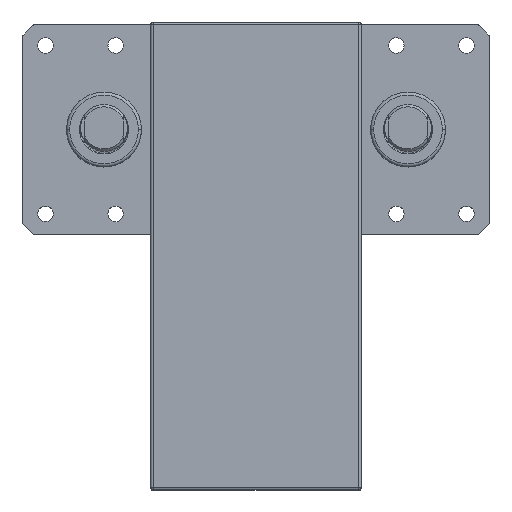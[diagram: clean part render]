
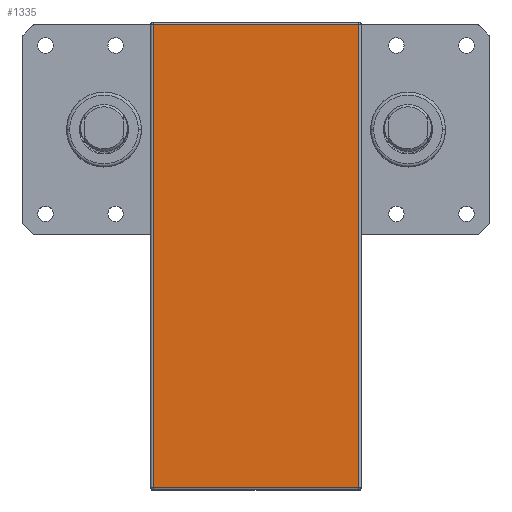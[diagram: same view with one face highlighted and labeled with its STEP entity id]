
A CAD part, top view. The second image highlights one B-rep face of the part: STEP entity #1335.
In plain terms, the highlighted planar face has unit normal (0, 0, 1).
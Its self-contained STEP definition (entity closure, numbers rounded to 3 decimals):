
#1335 = ADVANCED_FACE ( 'NONE', ( #21125 ), #33061, .T. ) ;
#2146 = EDGE_CURVE ( 'NONE', #28940, #8155, #32782, .T. ) ;
#5305 = DIRECTION ( 'NONE',  ( -1., 0., 0. ) ) ;
#7839 = CARTESIAN_POINT ( 'NONE',  ( 44., -154., 563. ) ) ;
#7847 = LINE ( 'NONE', #31333, #46267 ) ;
#8155 = VERTEX_POINT ( 'NONE', #20350 ) ;
#13334 = VERTEX_POINT ( 'NONE', #47925 ) ;
#14837 = EDGE_CURVE ( 'NONE', #38713, #28940, #41044, .T. ) ;
#15336 = VECTOR ( 'NONE', #32018, 1000. ) ;
#17224 = EDGE_LOOP ( 'NONE', ( #29847, #28604, #31741, #41720 ) ) ;
#20350 = CARTESIAN_POINT ( 'NONE',  ( 44., 44., 563. ) ) ;
#21125 = FACE_OUTER_BOUND ( 'NONE', #17224, .T. ) ;
#21145 = AXIS2_PLACEMENT_3D ( 'NONE', #40482, #44235, #21981 ) ;
#21981 = DIRECTION ( 'NONE',  ( 1., 0., 0. ) ) ;
#28604 = ORIENTED_EDGE ( 'NONE', *, *, #14837, .T. ) ;
#28940 = VERTEX_POINT ( 'NONE', #34121 ) ;
#29847 = ORIENTED_EDGE ( 'NONE', *, *, #47411, .T. ) ;
#30176 = DIRECTION ( 'NONE',  ( 1., 0., 0. ) ) ;
#31333 = CARTESIAN_POINT ( 'NONE',  ( -44., 44., 563. ) ) ;
#31584 = VECTOR ( 'NONE', #35830, 1000. ) ;
#31741 = ORIENTED_EDGE ( 'NONE', *, *, #2146, .T. ) ;
#32018 = DIRECTION ( 'NONE',  ( 0., -1., 0. ) ) ;
#32370 = VECTOR ( 'NONE', #30176, 1000. ) ;
#32782 = LINE ( 'NONE', #39537, #31584 ) ;
#33061 = PLANE ( 'NONE',  #21145 ) ;
#33470 = EDGE_CURVE ( 'NONE', #8155, #13334, #7847, .T. ) ;
#34121 = CARTESIAN_POINT ( 'NONE',  ( 44., -154., 563. ) ) ;
#35759 = CARTESIAN_POINT ( 'NONE',  ( -44., -154., 563. ) ) ;
#35830 = DIRECTION ( 'NONE',  ( 0., 1., 0. ) ) ;
#38713 = VERTEX_POINT ( 'NONE', #44749 ) ;
#39537 = CARTESIAN_POINT ( 'NONE',  ( 44., 44., 563. ) ) ;
#40482 = CARTESIAN_POINT ( 'NONE',  ( -44., -154., 563. ) ) ;
#41044 = LINE ( 'NONE', #7839, #32370 ) ;
#41720 = ORIENTED_EDGE ( 'NONE', *, *, #33470, .T. ) ;
#44235 = DIRECTION ( 'NONE',  ( 0., 0., 1. ) ) ;
#44749 = CARTESIAN_POINT ( 'NONE',  ( -44., -154., 563. ) ) ;
#45003 = LINE ( 'NONE', #35759, #15336 ) ;
#46267 = VECTOR ( 'NONE', #5305, 1000. ) ;
#47411 = EDGE_CURVE ( 'NONE', #13334, #38713, #45003, .T. ) ;
#47925 = CARTESIAN_POINT ( 'NONE',  ( -44., 44., 563. ) ) ;
